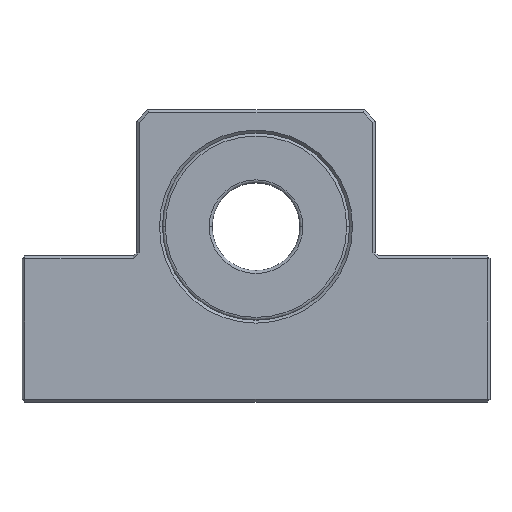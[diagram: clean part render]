
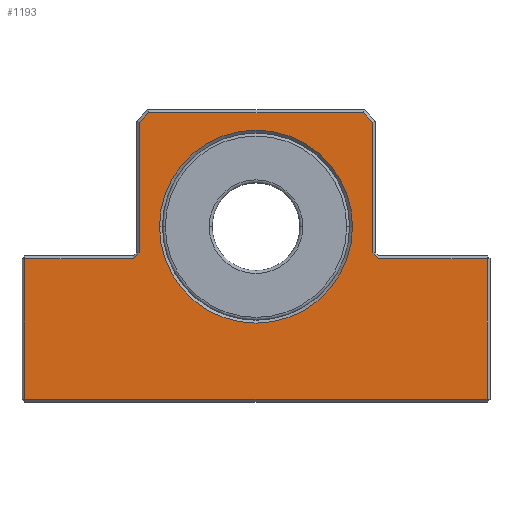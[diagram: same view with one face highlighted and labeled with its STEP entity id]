
A CAD part, top view. The second image highlights one B-rep face of the part: STEP entity #1193.
In plain terms, the highlighted planar face has unit normal (0, 0, 1).
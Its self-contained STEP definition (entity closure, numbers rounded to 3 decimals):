
#26 = EDGE_CURVE ( 'NONE', #360, #387, #656, .T. ) ;
#27 = EDGE_CURVE ( 'NONE', #359, #360, #659, .T. ) ;
#28 = EDGE_CURVE ( 'NONE', #358, #359, #662, .T. ) ;
#29 = EDGE_CURVE ( 'NONE', #358, #395, #665, .T. ) ;
#30 = EDGE_CURVE ( 'NONE', #394, #395, #668, .T. ) ;
#31 = EDGE_CURVE ( 'NONE', #393, #394, #671, .T. ) ;
#32 = EDGE_CURVE ( 'NONE', #392, #393, #674, .T. ) ;
#344 = EDGE_LOOP ( 'NONE', ( #532, #530, #531, #529, #528, #527, #526, #525, #524, #523, #522, #521 ) ) ;
#345 = EDGE_LOOP ( 'NONE', ( #534, #533 ) ) ;
#358 = VERTEX_POINT ( 'NONE', #754 ) ;
#359 = VERTEX_POINT ( 'NONE', #767 ) ;
#360 = VERTEX_POINT ( 'NONE', #768 ) ;
#387 = VERTEX_POINT ( 'NONE', #794 ) ;
#388 = VERTEX_POINT ( 'NONE', #795 ) ;
#389 = VERTEX_POINT ( 'NONE', #796 ) ;
#390 = VERTEX_POINT ( 'NONE', #797 ) ;
#391 = VERTEX_POINT ( 'NONE', #798 ) ;
#392 = VERTEX_POINT ( 'NONE', #799 ) ;
#393 = VERTEX_POINT ( 'NONE', #800 ) ;
#394 = VERTEX_POINT ( 'NONE', #801 ) ;
#395 = VERTEX_POINT ( 'NONE', #802 ) ;
#435 = VERTEX_POINT ( 'NONE', #842 ) ;
#436 = VERTEX_POINT ( 'NONE', #843 ) ;
#521 = ORIENTED_EDGE ( 'NONE', *, *, #26, .T. ) ;
#522 = ORIENTED_EDGE ( 'NONE', *, *, #27, .T. ) ;
#523 = ORIENTED_EDGE ( 'NONE', *, *, #28, .T. ) ;
#524 = ORIENTED_EDGE ( 'NONE', *, *, #29, .F. ) ;
#525 = ORIENTED_EDGE ( 'NONE', *, *, #30, .T. ) ;
#526 = ORIENTED_EDGE ( 'NONE', *, *, #31, .T. ) ;
#527 = ORIENTED_EDGE ( 'NONE', *, *, #32, .T. ) ;
#528 = ORIENTED_EDGE ( 'NONE', *, *, #1263, .T. ) ;
#529 = ORIENTED_EDGE ( 'NONE', *, *, #1264, .T. ) ;
#530 = ORIENTED_EDGE ( 'NONE', *, *, #1268, .T. ) ;
#531 = ORIENTED_EDGE ( 'NONE', *, *, #1265, .F. ) ;
#532 = ORIENTED_EDGE ( 'NONE', *, *, #1266, .T. ) ;
#533 = ORIENTED_EDGE ( 'NONE', *, *, #1267, .T. ) ;
#534 = ORIENTED_EDGE ( 'NONE', *, *, #1299, .T. ) ;
#656 = LINE ( 'NONE', #657, #2205 ) ;
#657 = CARTESIAN_POINT ( 'NONE',  ( 0., -29.5, 10. ) ) ;
#658 = DIRECTION ( 'NONE',  ( 1., 0., 0. ) ) ;
#659 = LINE ( 'NONE', #660, #2207 ) ;
#660 = CARTESIAN_POINT ( 'NONE',  ( -39.5, 0., 10. ) ) ;
#661 = DIRECTION ( 'NONE',  ( 0., -1., 0. ) ) ;
#662 = LINE ( 'NONE', #663, #2208 ) ;
#663 = CARTESIAN_POINT ( 'NONE',  ( 0., -5.5, 10. ) ) ;
#664 = DIRECTION ( 'NONE',  ( -1., 0., 0. ) ) ;
#665 = LINE ( 'NONE', #666, #2209 ) ;
#666 = CARTESIAN_POINT ( 'NONE',  ( -20., -4.5, 10. ) ) ;
#667 = DIRECTION ( 'NONE',  ( 0.707, 0.707, 0. ) ) ;
#668 = LINE ( 'NONE', #669, #2210 ) ;
#669 = CARTESIAN_POINT ( 'NONE',  ( -20., 0., 10. ) ) ;
#670 = DIRECTION ( 'NONE',  ( 0., -1., 0. ) ) ;
#671 = LINE ( 'NONE', #672, #1481 ) ;
#672 = CARTESIAN_POINT ( 'NONE',  ( -20.146, 17.646, 10. ) ) ;
#673 = DIRECTION ( 'NONE',  ( -0.707, -0.707, 0. ) ) ;
#674 = LINE ( 'NONE', #675, #2219 ) ;
#675 = CARTESIAN_POINT ( 'NONE',  ( 0., 19.5, 10. ) ) ;
#676 = DIRECTION ( 'NONE',  ( -1., 0., 0. ) ) ;
#754 = CARTESIAN_POINT ( 'NONE',  ( -21., -5.5, 10. ) ) ;
#767 = CARTESIAN_POINT ( 'NONE',  ( -39.5, -5.5, 10. ) ) ;
#768 = CARTESIAN_POINT ( 'NONE',  ( -39.5, -29.5, 10. ) ) ;
#794 = CARTESIAN_POINT ( 'NONE',  ( 39.5, -29.5, 10. ) ) ;
#795 = CARTESIAN_POINT ( 'NONE',  ( 39.5, -5.5, 10. ) ) ;
#796 = CARTESIAN_POINT ( 'NONE',  ( 21., -5.5, 10. ) ) ;
#797 = CARTESIAN_POINT ( 'NONE',  ( 20., -4.5, 10. ) ) ;
#798 = CARTESIAN_POINT ( 'NONE',  ( 20., 17.793, 10. ) ) ;
#799 = CARTESIAN_POINT ( 'NONE',  ( 18.293, 19.5, 10. ) ) ;
#800 = CARTESIAN_POINT ( 'NONE',  ( -18.293, 19.5, 10. ) ) ;
#801 = CARTESIAN_POINT ( 'NONE',  ( -20., 17.793, 10. ) ) ;
#802 = CARTESIAN_POINT ( 'NONE',  ( -20., -4.5, 10. ) ) ;
#842 = CARTESIAN_POINT ( 'NONE',  ( -16.5, 0., 10. ) ) ;
#843 = CARTESIAN_POINT ( 'NONE',  ( 16.5, 0., 10. ) ) ;
#1061 = PLANE ( 'NONE',  #1356 ) ;
#1062 = CARTESIAN_POINT ( 'NONE',  ( 0., 0., 10. ) ) ;
#1063 = DIRECTION ( 'NONE',  ( 0., 0., -1. ) ) ;
#1064 = DIRECTION ( 'NONE',  ( -1., 0., 0. ) ) ;
#1193 = ADVANCED_FACE ( 'NONE', ( #1352, #2096 ), #1061, .F. ) ;
#1263 = EDGE_CURVE ( 'NONE', #391, #392, #1705, .T. ) ;
#1264 = EDGE_CURVE ( 'NONE', #390, #391, #1708, .T. ) ;
#1265 = EDGE_CURVE ( 'NONE', #390, #389, #1711, .T. ) ;
#1266 = EDGE_CURVE ( 'NONE', #387, #388, #1714, .T. ) ;
#1267 = EDGE_CURVE ( 'NONE', #435, #436, #1958, .T. ) ;
#1268 = EDGE_CURVE ( 'NONE', #388, #389, #1720, .T. ) ;
#1299 = EDGE_CURVE ( 'NONE', #436, #435, #1968, .T. ) ;
#1352 = FACE_BOUND ( 'NONE', #345, .T. ) ;
#1356 = AXIS2_PLACEMENT_3D ( 'NONE', #1062, #1063, #1064 ) ;
#1417 = VECTOR ( 'NONE', #1722, 1000. ) ;
#1474 = AXIS2_PLACEMENT_3D ( 'NONE', #1704, #1717, #1718 ) ;
#1475 = VECTOR ( 'NONE', #1707, 1000. ) ;
#1476 = VECTOR ( 'NONE', #1710, 1000. ) ;
#1477 = VECTOR ( 'NONE', #1713, 1000. ) ;
#1478 = VECTOR ( 'NONE', #1716, 1000. ) ;
#1481 = VECTOR ( 'NONE', #673, 1000. ) ;
#1704 = CARTESIAN_POINT ( 'NONE',  ( 0., 0., 10. ) ) ;
#1705 = LINE ( 'NONE', #1706, #1475 ) ;
#1706 = CARTESIAN_POINT ( 'NONE',  ( 18.146, 19.646, 10. ) ) ;
#1707 = DIRECTION ( 'NONE',  ( -0.707, 0.707, 0. ) ) ;
#1708 = LINE ( 'NONE', #1709, #1476 ) ;
#1709 = CARTESIAN_POINT ( 'NONE',  ( 20., 0., 10. ) ) ;
#1710 = DIRECTION ( 'NONE',  ( 0., 1., 0. ) ) ;
#1711 = LINE ( 'NONE', #1712, #1477 ) ;
#1712 = CARTESIAN_POINT ( 'NONE',  ( 21., -5.5, 10. ) ) ;
#1713 = DIRECTION ( 'NONE',  ( 0.707, -0.707, 0. ) ) ;
#1714 = LINE ( 'NONE', #1715, #1478 ) ;
#1715 = CARTESIAN_POINT ( 'NONE',  ( 39.5, 0., 10. ) ) ;
#1716 = DIRECTION ( 'NONE',  ( 0., 1., 0. ) ) ;
#1717 = DIRECTION ( 'NONE',  ( 0., 0., -1. ) ) ;
#1718 = DIRECTION ( 'NONE',  ( -1., 0., 0. ) ) ;
#1720 = LINE ( 'NONE', #1721, #1417 ) ;
#1721 = CARTESIAN_POINT ( 'NONE',  ( 0., -5.5, 10. ) ) ;
#1722 = DIRECTION ( 'NONE',  ( -1., 0., 0. ) ) ;
#1788 = CARTESIAN_POINT ( 'NONE',  ( 0., 0., 10. ) ) ;
#1810 = DIRECTION ( 'NONE',  ( 0., 0., -1. ) ) ;
#1811 = DIRECTION ( 'NONE',  ( -1., 0., 0. ) ) ;
#1958 = CIRCLE ( 'NONE', #1474, 16.5 ) ;
#1968 = CIRCLE ( 'NONE', #2118, 16.5 ) ;
#2096 = FACE_OUTER_BOUND ( 'NONE', #344, .T. ) ;
#2118 = AXIS2_PLACEMENT_3D ( 'NONE', #1788, #1810, #1811 ) ;
#2205 = VECTOR ( 'NONE', #658, 1000. ) ;
#2207 = VECTOR ( 'NONE', #661, 1000. ) ;
#2208 = VECTOR ( 'NONE', #664, 1000. ) ;
#2209 = VECTOR ( 'NONE', #667, 1000. ) ;
#2210 = VECTOR ( 'NONE', #670, 1000. ) ;
#2219 = VECTOR ( 'NONE', #676, 1000. ) ;
